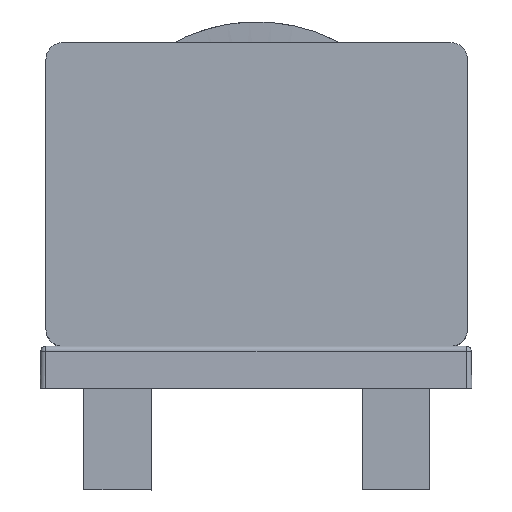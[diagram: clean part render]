
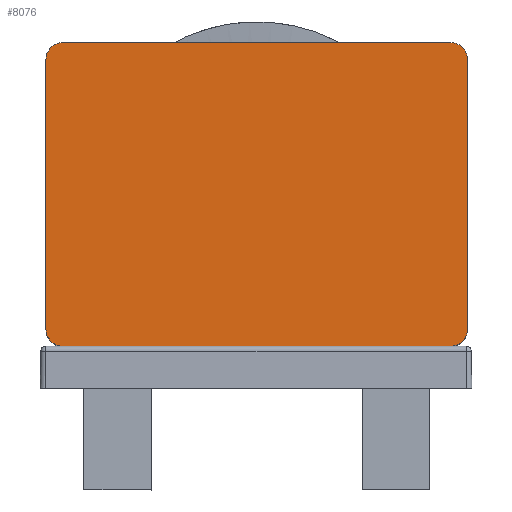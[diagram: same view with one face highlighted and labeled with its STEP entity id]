
A CAD part, top view. The second image highlights one B-rep face of the part: STEP entity #8076.
In plain terms, the highlighted planar face has unit normal (0, 0, 1).
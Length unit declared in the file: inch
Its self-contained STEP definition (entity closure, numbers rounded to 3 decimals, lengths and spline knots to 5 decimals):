
#105 = DIRECTION ( 'NONE',  ( 0., 1., 0. ) ) ;
#146 = LINE ( 'NONE', #1855, #6845 ) ;
#287 = ORIENTED_EDGE ( 'NONE', *, *, #3429, .F. ) ;
#404 = CARTESIAN_POINT ( 'NONE',  ( 0.57432, 0.80709, 0. ) ) ;
#413 = EDGE_CURVE ( 'Defeatured_1_116+Defeatured_1_117+Defeatured_1_126+Defeatured_1_128', #5139, #6019, #8193, .T. ) ;
#498 = CARTESIAN_POINT ( 'NONE',  ( -0.37056, 0.09843, 0. ) ) ;
#891 = CIRCLE ( 'NONE', #4727, 0.03937 ) ;
#1005 = VECTOR ( 'NONE', #6328, 39.37008 ) ;
#1155 = CARTESIAN_POINT ( 'NONE',  ( -0.33119, 0.1378, 0. ) ) ;
#1415 = CARTESIAN_POINT ( 'NONE',  ( 0.57432, 0.76772, 0. ) ) ;
#1495 = VERTEX_POINT ( 'NONE', #6259 ) ;
#1641 = AXIS2_PLACEMENT_3D ( 'NONE', #2554, #7077, #3214 ) ;
#1647 = CARTESIAN_POINT ( 'NONE',  ( 0.61369, 0.09843, 0. ) ) ;
#1663 = VERTEX_POINT ( 'NONE', #4067 ) ;
#1717 = AXIS2_PLACEMENT_3D ( 'NONE', #1415, #6609, #6581 ) ;
#1813 = DIRECTION ( 'NONE',  ( 0., 1., 0. ) ) ;
#1855 = CARTESIAN_POINT ( 'NONE',  ( 0.61369, 0.09843, 0. ) ) ;
#1958 = CARTESIAN_POINT ( 'NONE',  ( 0.61369, 0.80709, 0. ) ) ;
#2343 = VERTEX_POINT ( 'NONE', #6997 ) ;
#2383 = PLANE ( 'NONE',  #7446 ) ;
#2402 = DIRECTION ( 'NONE',  ( -1., 0., 0. ) ) ;
#2507 = CIRCLE ( 'NONE', #1641, 0.03937 ) ;
#2554 = CARTESIAN_POINT ( 'NONE',  ( 0.57432, 0.1378, 0. ) ) ;
#2713 = EDGE_CURVE ( 'Defeatured_1_117+Defeatured_1_128+Defeatured_1_113+Defeatured_1_116', #1495, #6019, #6044, .T. ) ;
#2822 = EDGE_CURVE ( 'Defeatured_1_117+Defeatured_1_126+Defeatured_1_116+Defeatured_1_115', #5139, #7182, #891, .T. ) ;
#2939 = LINE ( 'NONE', #498, #1005 ) ;
#2951 = ORIENTED_EDGE ( 'NONE', *, *, #2822, .T. ) ;
#3214 = DIRECTION ( 'NONE',  ( 0., 1., 0. ) ) ;
#3250 = VECTOR ( 'NONE', #3568, 39.37008 ) ;
#3429 = EDGE_CURVE ( 'Defeatured_1_113+Defeatured_1_117+Defeatured_1_128+Defeatured_1_129', #1495, #7255, #146, .T. ) ;
#3568 = DIRECTION ( 'NONE',  ( 1., 0., 0. ) ) ;
#3626 = CARTESIAN_POINT ( 'NONE',  ( -0.33119, 0.80709, 0. ) ) ;
#3729 = DIRECTION ( 'NONE',  ( 0., 0., 1. ) ) ;
#4067 = CARTESIAN_POINT ( 'NONE',  ( -0.37056, 0.1378, 0. ) ) ;
#4217 = ORIENTED_EDGE ( 'NONE', *, *, #2713, .T. ) ;
#4255 = CARTESIAN_POINT ( 'NONE',  ( 0.61369, 0.1378, 0. ) ) ;
#4273 = ORIENTED_EDGE ( 'NONE', *, *, #8132, .T. ) ;
#4396 = EDGE_CURVE ( 'Defeatured_1_1+Defeatured_1_117+Defeatured_1_129+Defeatured_1_127', #5682, #2343, #7005, .T. ) ;
#4631 = DIRECTION ( 'NONE',  ( 0., 0., 1. ) ) ;
#4727 = AXIS2_PLACEMENT_3D ( 'NONE', #5232, #4631, #105 ) ;
#5139 = VERTEX_POINT ( 'NONE', #3626 ) ;
#5214 = EDGE_CURVE ( 'Defeatured_1_117+Defeatured_1_127+Defeatured_1_115+Defeatured_1_1', #1663, #2343, #6164, .T. ) ;
#5232 = CARTESIAN_POINT ( 'NONE',  ( -0.33119, 0.76772, 0. ) ) ;
#5233 = EDGE_CURVE ( 'Defeatured_1_115+Defeatured_1_117+Defeatured_1_127+Defeatured_1_126', #1663, #7182, #2939, .T. ) ;
#5250 = VECTOR ( 'NONE', #2402, 39.37008 ) ;
#5669 = DIRECTION ( 'NONE',  ( 0., 0., 1. ) ) ;
#5682 = VERTEX_POINT ( 'NONE', #7752 ) ;
#5806 = ORIENTED_EDGE ( 'NONE', *, *, #5214, .T. ) ;
#5827 = FACE_OUTER_BOUND ( 'NONE', #7445, .T. ) ;
#5828 = DIRECTION ( 'NONE',  ( 0., -1., 0. ) ) ;
#6019 = VERTEX_POINT ( 'NONE', #404 ) ;
#6044 = CIRCLE ( 'NONE', #1717, 0.03937 ) ;
#6123 = AXIS2_PLACEMENT_3D ( 'NONE', #1155, #5669, #1813 ) ;
#6164 = CIRCLE ( 'NONE', #6123, 0.03937 ) ;
#6259 = CARTESIAN_POINT ( 'NONE',  ( 0.61369, 0.76772, 0. ) ) ;
#6328 = DIRECTION ( 'NONE',  ( 0., 1., 0. ) ) ;
#6396 = ORIENTED_EDGE ( 'NONE', *, *, #4396, .F. ) ;
#6426 = ORIENTED_EDGE ( 'NONE', *, *, #413, .F. ) ;
#6581 = DIRECTION ( 'NONE',  ( 0., 1., 0. ) ) ;
#6609 = DIRECTION ( 'NONE',  ( 0., 0., 1. ) ) ;
#6632 = CARTESIAN_POINT ( 'NONE',  ( -0.37056, 0.76772, 0. ) ) ;
#6845 = VECTOR ( 'NONE', #5828, 39.37008 ) ;
#6997 = CARTESIAN_POINT ( 'NONE',  ( -0.33119, 0.09843, 0. ) ) ;
#7005 = LINE ( 'NONE', #1647, #5250 ) ;
#7077 = DIRECTION ( 'NONE',  ( 0., 0., 1. ) ) ;
#7083 = ORIENTED_EDGE ( 'NONE', *, *, #5233, .F. ) ;
#7182 = VERTEX_POINT ( 'NONE', #6632 ) ;
#7255 = VERTEX_POINT ( 'NONE', #4255 ) ;
#7445 = EDGE_LOOP ( 'NONE', ( #6426, #2951, #7083, #5806, #6396, #4273, #287, #4217 ) ) ;
#7446 = AXIS2_PLACEMENT_3D ( 'NONE', #7601, #3729, #8232 ) ;
#7601 = CARTESIAN_POINT ( 'NONE',  ( 0.61369, 0.09843, 0. ) ) ;
#7752 = CARTESIAN_POINT ( 'NONE',  ( 0.57432, 0.09843, 0. ) ) ;
#8076 = ADVANCED_FACE ( 'Defeatured_1_117', ( #5827 ), #2383, .T. ) ;
#8132 = EDGE_CURVE ( 'Defeatured_1_117+Defeatured_1_129+Defeatured_1_1+Defeatured_1_113', #5682, #7255, #2507, .T. ) ;
#8193 = LINE ( 'NONE', #1958, #3250 ) ;
#8232 = DIRECTION ( 'NONE',  ( 0., 1., 0. ) ) ;
